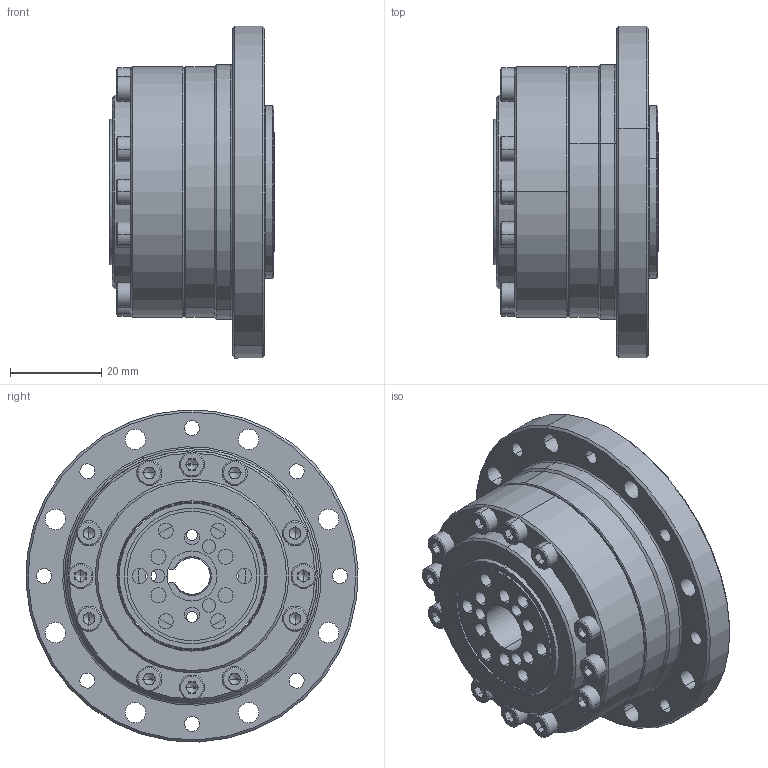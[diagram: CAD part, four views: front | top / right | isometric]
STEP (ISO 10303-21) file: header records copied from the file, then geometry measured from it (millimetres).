
FILE_DESCRIPTION (( 'STEP AP203' ), '1' );
FILE_NAME ('BCSG-14-XXX-U-¢ñ.STEP', '2019-01-15T03:28:42', ( 'User' ), ( 'China' ), 'SwSTEP 2.0', 'SolidWorks 2015', '' );
FILE_SCHEMA (( 'CONFIG_CONTROL_DESIGN' ));
Length unit declared in the file: millimetre
Products named in the file (1): BCSG-14-XXX-U-ｉ
Bounding box: 36.13 x 72.93 x 72.93 mm (x, y, z)
Surface area: 39850.7 mm2 (no closed solid volume)
Topology: 0 solids, 49 shells, 668 faces, 1909 edges, 1207 vertices
Faces by surface type: cylinder 203, plane 154, cone 135, torus 132, sphere 40, bspline 4
Entity records: 23108 total; most frequent: CARTESIAN_POINT 6030, DIRECTION 3925, ORIENTED_EDGE 3100, EDGE_CURVE 1785, AXIS2_PLACEMENT_3D 1650, VERTEX_POINT 1147, CIRCLE 985, EDGE_LOOP 801
